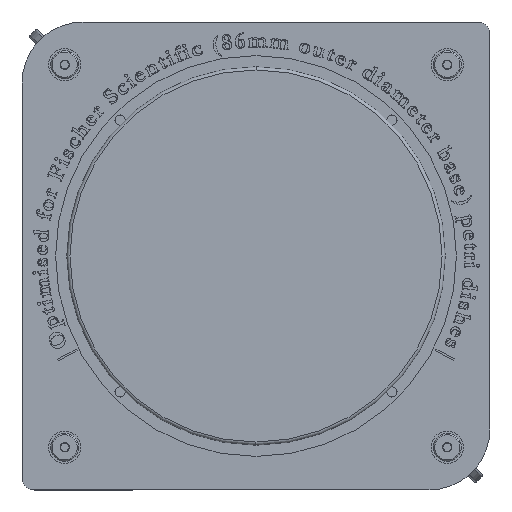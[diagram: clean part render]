
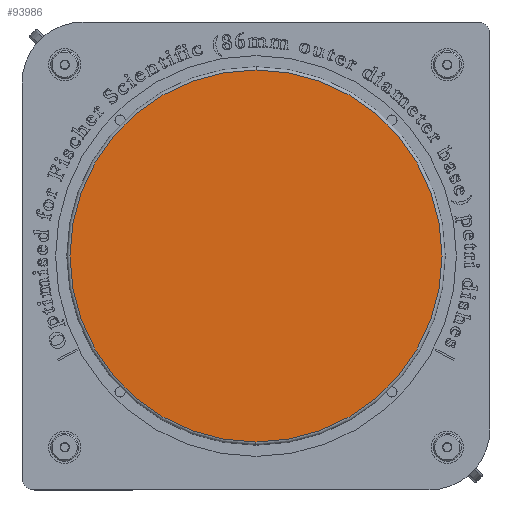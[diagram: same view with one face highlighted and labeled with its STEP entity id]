
A CAD part, front view. The second image highlights one B-rep face of the part: STEP entity #93986.
In plain terms, the highlighted planar face has unit normal (0, -1, 0).
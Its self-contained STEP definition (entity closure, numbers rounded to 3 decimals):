
#5409 = FACE_OUTER_BOUND ( 'NONE', #168437, .T. ) ;
#18625 = AXIS2_PLACEMENT_3D ( 'NONE', #32152, #84822, #83122 ) ;
#23429 = AXIS2_PLACEMENT_3D ( 'NONE', #68917, #120805, #55126 ) ;
#32152 = CARTESIAN_POINT ( 'NONE',  ( 0., 0., 0. ) ) ;
#55108 = CARTESIAN_POINT ( 'NONE',  ( 0., 0., 45.706 ) ) ;
#55126 = DIRECTION ( 'NONE',  ( 0., 0., -1. ) ) ;
#57195 = PLANE ( 'NONE',  #18625 ) ;
#67530 = CIRCLE ( 'NONE', #23429, 45.706 ) ;
#68917 = CARTESIAN_POINT ( 'NONE',  ( 0., 0., 0. ) ) ;
#83122 = DIRECTION ( 'NONE',  ( 0., 0., -1. ) ) ;
#84822 = DIRECTION ( 'NONE',  ( 0., -1., 0. ) ) ;
#87357 = AXIS2_PLACEMENT_3D ( 'NONE', #144536, #94368, #159209 ) ;
#89728 = VERTEX_POINT ( 'NONE', #55108 ) ;
#93986 = ADVANCED_FACE ( 'NONE', ( #5409 ), #57195, .T. ) ;
#94368 = DIRECTION ( 'NONE',  ( 0., -1., 0. ) ) ;
#101735 = EDGE_CURVE ( 'NONE', #89728, #142000, #67530, .T. ) ;
#118319 = EDGE_CURVE ( 'NONE', #142000, #89728, #137463, .T. ) ;
#120537 = ORIENTED_EDGE ( 'NONE', *, *, #118319, .T. ) ;
#120805 = DIRECTION ( 'NONE',  ( 0., -1., 0. ) ) ;
#137463 = CIRCLE ( 'NONE', #87357, 45.706 ) ;
#142000 = VERTEX_POINT ( 'NONE', #150144 ) ;
#144536 = CARTESIAN_POINT ( 'NONE',  ( 0., 0., 0. ) ) ;
#148377 = ORIENTED_EDGE ( 'NONE', *, *, #101735, .T. ) ;
#150144 = CARTESIAN_POINT ( 'NONE',  ( 0., 0., -45.706 ) ) ;
#159209 = DIRECTION ( 'NONE',  ( 0., 0., -1. ) ) ;
#168437 = EDGE_LOOP ( 'NONE', ( #120537, #148377 ) ) ;
